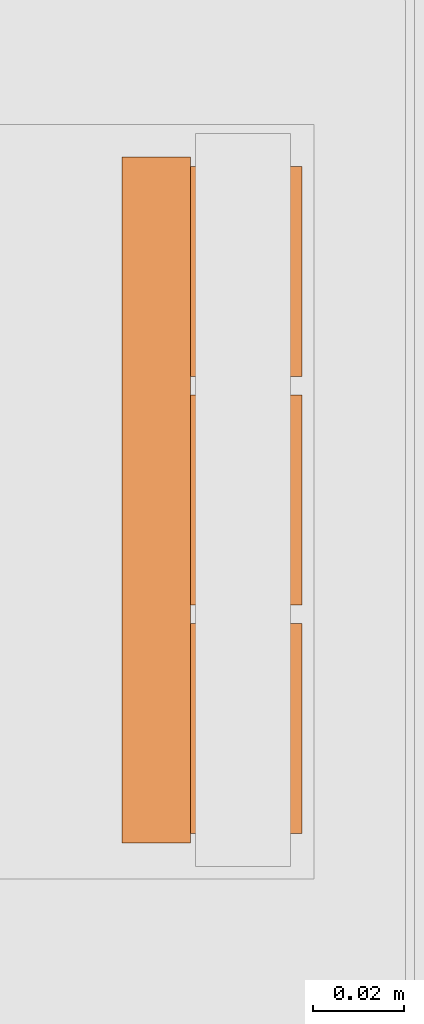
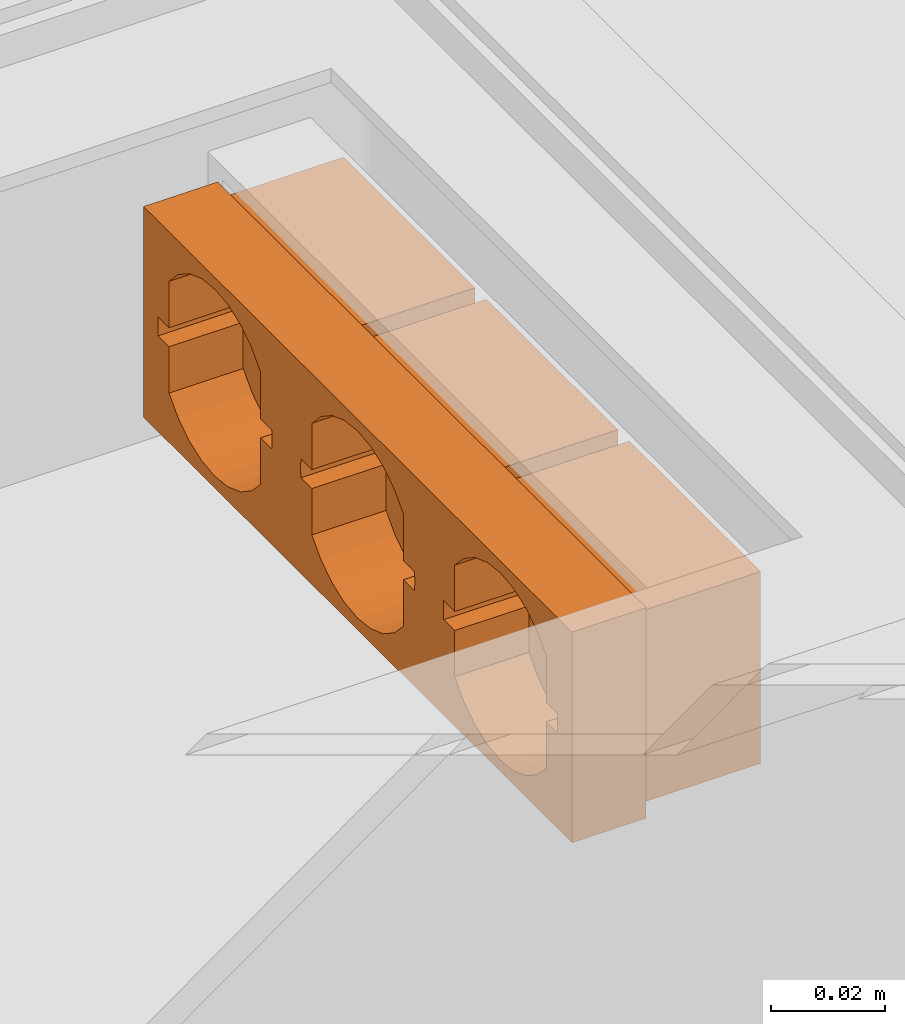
# One storey, part 76 of 87: 1 proxy.
"""IFC2X3 building model written with IfcOpenShell, lengths in millimetres."""

from ifc_helpers import new_model, entity, si_unit, converted_unit, derived_unit, direction, frame, origin, place, context, subcontext, project, spatial, faceted_brep, source, transform, mapped, type_object, type_shapes, element, save


model = new_model("IFC2X3")

# Units and contexts
model_context = context("Model", 3, precision=0.01, world=origin(), true_north=direction((6.12303176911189e-17, 1.0)))
body_context = subcontext(model_context, "Body", "Model", "MODEL_VIEW")
ifc_project = project(units=[si_unit("LENGTHUNIT", "METRE", prefix="MILLI"), si_unit("AREAUNIT", "SQUARE_METRE"), si_unit("VOLUMEUNIT", "CUBIC_METRE"), converted_unit("PLANEANGLEUNIT", "DEGREE", entity("IfcRatioMeasure", 0.0174532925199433), si_unit("PLANEANGLEUNIT", "RADIAN"), dimensions=[0, 0, 0, 0, 0, 0, 0]), si_unit("MASSUNIT", "GRAM", prefix="KILO"), derived_unit("MASSDENSITYUNIT", [(si_unit("MASSUNIT", "GRAM", prefix="KILO"), 1), (si_unit("LENGTHUNIT", "METRE"), -3)]), si_unit("TIMEUNIT", "SECOND"), si_unit("FREQUENCYUNIT", "HERTZ"), si_unit("THERMODYNAMICTEMPERATUREUNIT", "DEGREE_CELSIUS"), derived_unit("THERMALTRANSMITTANCEUNIT", [(si_unit("MASSUNIT", "GRAM", prefix="KILO"), 1), (si_unit("THERMODYNAMICTEMPERATUREUNIT", "KELVIN"), -1), (si_unit("TIMEUNIT", "SECOND"), -3)]), derived_unit("VOLUMETRICFLOWRATEUNIT", [(si_unit("LENGTHUNIT", "METRE"), 3), (si_unit("TIMEUNIT", "SECOND"), -1)]), si_unit("ELECTRICCURRENTUNIT", "AMPERE"), si_unit("ELECTRICVOLTAGEUNIT", "VOLT"), si_unit("POWERUNIT", "WATT"), si_unit("FORCEUNIT", "NEWTON", prefix="KILO"), si_unit("ILLUMINANCEUNIT", "LUX"), si_unit("LUMINOUSFLUXUNIT", "LUMEN"), si_unit("LUMINOUSINTENSITYUNIT", "CANDELA"), derived_unit("USERDEFINED", [(si_unit("MASSUNIT", "GRAM", prefix="KILO"), -1), (si_unit("LENGTHUNIT", "METRE"), -2), (si_unit("TIMEUNIT", "SECOND"), 3), (si_unit("LUMINOUSFLUXUNIT", "LUMEN"), 1)]), derived_unit("LINEARVELOCITYUNIT", [(si_unit("LENGTHUNIT", "METRE"), 1), (si_unit("TIMEUNIT", "SECOND"), -1)]), si_unit("PRESSUREUNIT", "PASCAL"), derived_unit("USERDEFINED", [(si_unit("LENGTHUNIT", "METRE"), -2), (si_unit("MASSUNIT", "GRAM", prefix="KILO"), 1), (si_unit("TIMEUNIT", "SECOND"), -2)])], contexts=[model_context])

# Site, building, storey
site_placement = place(None, origin())
site = spatial("IfcSite", under=ifc_project, at=site_placement, Name="Default", CompositionType="ELEMENT")
building_placement = place(site_placement, origin())
building = spatial("IfcBuilding", under=site, at=building_placement, Name="Наименование здания", CompositionType="ELEMENT")
storey_placement = place(building_placement, origin())
storey = spatial("IfcBuildingStorey", under=building, at=storey_placement, Name="Этаж 01", CompositionType="ELEMENT", Elevation=0.0)

# Proxy
building_element_proxy_type = type_object("IfcBuildingElementProxyType", Name="Белый", PredefinedType="NOTDEFINED")
shared_shape = source(origin(), body_context, "Body", "Brep", [
    faceted_brep([(62.5564586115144, 10.5732864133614, 0.0), (59.5230890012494, 10.5732864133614, -3.03336961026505), (56.4897193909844, 10.5732864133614, 0.0), (59.5230890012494, 10.5732864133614, 3.03336961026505), (43.5102806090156, 10.5732864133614, 0.0), (40.4769109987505, 10.5732864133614, -3.03336961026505), (37.4435413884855, 10.5732864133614, 0.0), (40.4769109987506, 10.5732864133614, 3.03336961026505), (40.4769109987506, 24.2999999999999, 3.03336961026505), (27.0, 24.2999999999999, 20.5000000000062), (59.5230890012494, 24.2999999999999, 3.03336961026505), (37.4435413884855, 24.2999999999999, 0.0), (43.5102806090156, 24.2999999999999, 0.0), (27.0, 24.2999999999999, -20.5000000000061), (40.4769109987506, 24.2999999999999, -3.03336961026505), (59.5230890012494, 24.2999999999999, -3.03336961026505), (56.4897193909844, 24.2999999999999, 0.0), (73.0, 24.2999999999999, -20.5000000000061), (62.5564586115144, 24.2999999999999, 0.0), (73.0, 24.2999999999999, 20.5000000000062), (73.0, 0.0, 20.5000000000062), (27.0, 0.0, 20.5000000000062), (27.0, 0.0, -20.5000000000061), (73.0, 0.0, -20.5000000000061)], [[[0, 1, 2, 3]], [[4, 5, 6, 7]], [[8, 9, 10]], [[11, 9, 8]], [[12, 8, 10]], [[9, 11, 13]], [[14, 13, 11]], [[15, 13, 14]], [[14, 12, 15]], [[16, 15, 12]], [[13, 15, 17]], [[17, 15, 18]], [[18, 10, 19]], [[19, 17, 18]], [[19, 10, 9]], [[16, 12, 10]], [[20, 21, 22, 23]], [[20, 19, 9, 21]], [[23, 17, 19, 20]], [[22, 13, 17, 23]], [[21, 9, 13, 22]], [[11, 6, 5, 14]], [[5, 4, 12, 14]], [[12, 4, 7, 8]], [[7, 6, 11, 8]], [[16, 2, 1, 15]], [[1, 0, 18, 15]], [[18, 0, 3, 10]], [[3, 2, 16, 10]]]),
    faceted_brep([(41.0158322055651, 39.2999999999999, 17.868540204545), (37.1337260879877, 39.2999999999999, 15.31205393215), (25.0, 39.2999999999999, 22.5000000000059), (45.3832264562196, 39.2999999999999, 19.4598407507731), (33.9466036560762, 39.2999999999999, 11.9284729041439), (30.1036424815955, 39.2999999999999, 2.03345949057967), (33.9466036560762, 39.2999999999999, 2.03345949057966), (30.0, 39.2999999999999, 0.0), (25.0, 39.2999999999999, -22.5000000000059), (30.1036424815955, 39.2999999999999, -2.03345949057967), (33.9466036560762, 39.2999999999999, -11.9284729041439), (33.9466036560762, 39.2999999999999, -2.03345949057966), (37.1337260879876, 39.2999999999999, -15.31205393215), (41.0158322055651, 39.2999999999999, -17.8685402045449), (45.3832264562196, 39.2999999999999, -19.4598407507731), (50.0, 39.2999999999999, -20.0), (75.0, 39.2999999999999, -22.5000000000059), (54.6167735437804, 39.2999999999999, -19.4598407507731), (58.9841677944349, 39.2999999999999, -17.8685402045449), (62.8662739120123, 39.2999999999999, -15.31205393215), (66.0533963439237, 39.2999999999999, -11.9284729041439), (69.8963575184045, 39.2999999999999, -2.03345949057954), (66.0533963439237, 39.2999999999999, -2.03345949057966), (70.0, 39.2999999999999, 0.0), (75.0, 39.2999999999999, 22.5000000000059), (69.8963575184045, 39.2999999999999, 2.03345949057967), (66.0533963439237, 39.2999999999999, 11.9284729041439), (66.0533963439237, 39.2999999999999, 2.03345949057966), (62.8662739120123, 39.2999999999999, 15.31205393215), (58.9841677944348, 39.2999999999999, 17.868540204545), (54.6167735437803, 39.2999999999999, 19.4598407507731), (50.0, 39.2999999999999, 20.0), (41.0158322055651, 24.2999999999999, -17.8685402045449), (37.1337260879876, 24.2999999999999, -15.31205393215), (25.0, 24.2999999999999, -22.5000000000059), (45.3832264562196, 24.2999999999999, -19.4598407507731), (33.9466036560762, 24.2999999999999, -11.9284729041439), (30.1036424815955, 24.2999999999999, -2.03345949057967), (33.9466036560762, 24.2999999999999, -2.03345949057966), (30.0, 24.2999999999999, 0.0), (25.0, 24.2999999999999, 22.5000000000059), (30.1036424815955, 24.2999999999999, 2.03345949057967), (33.9466036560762, 24.2999999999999, 11.9284729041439), (33.9466036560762, 24.2999999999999, 2.03345949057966), (37.1337260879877, 24.2999999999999, 15.31205393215), (41.0158322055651, 24.2999999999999, 17.868540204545), (45.3832264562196, 24.2999999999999, 19.4598407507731), (50.0, 24.2999999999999, 20.0), (75.0, 24.2999999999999, 22.5000000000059), (54.6167735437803, 24.2999999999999, 19.4598407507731), (58.9841677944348, 24.2999999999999, 17.868540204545), (62.8662739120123, 24.2999999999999, 15.31205393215), (66.0533963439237, 24.2999999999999, 11.9284729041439), (69.8963575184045, 24.2999999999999, 2.03345949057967), (66.0533963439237, 24.2999999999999, 2.03345949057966), (70.0, 24.2999999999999, 0.0), (75.0, 24.2999999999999, -22.5000000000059), (69.8963575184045, 24.2999999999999, -2.03345949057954), (66.0533963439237, 24.2999999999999, -11.9284729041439), (66.0533963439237, 24.2999999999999, -2.03345949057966), (62.8662739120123, 24.2999999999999, -15.31205393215), (58.9841677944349, 24.2999999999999, -17.8685402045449), (54.6167735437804, 24.2999999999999, -19.4598407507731), (50.0, 24.2999999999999, -20.0)], [[[0, 1, 2]], [[2, 3, 0]], [[4, 2, 1]], [[2, 4, 5]], [[5, 4, 6]], [[2, 5, 7]], [[7, 8, 2]], [[8, 7, 9]], [[8, 9, 10]], [[11, 10, 9]], [[12, 8, 10]], [[12, 13, 8]], [[14, 8, 13]], [[8, 14, 15]], [[15, 16, 8]], [[16, 15, 17]], [[16, 17, 18]], [[18, 19, 16]], [[20, 16, 19]], [[21, 16, 20]], [[21, 20, 22]], [[16, 21, 23]], [[24, 16, 23]], [[23, 25, 24]], [[24, 25, 26]], [[27, 26, 25]], [[24, 26, 28]], [[28, 29, 24]], [[30, 24, 29]], [[24, 30, 31]], [[31, 3, 2]], [[2, 24, 31]], [[32, 33, 34]], [[34, 35, 32]], [[36, 34, 33]], [[34, 36, 37]], [[37, 36, 38]], [[34, 37, 39]], [[39, 40, 34]], [[40, 39, 41]], [[40, 41, 42]], [[43, 42, 41]], [[44, 40, 42]], [[44, 45, 40]], [[46, 40, 45]], [[40, 46, 47]], [[47, 48, 40]], [[48, 47, 49]], [[48, 49, 50]], [[50, 51, 48]], [[52, 48, 51]], [[53, 48, 52]], [[53, 52, 54]], [[48, 53, 55]], [[56, 48, 55]], [[55, 57, 56]], [[56, 57, 58]], [[59, 58, 57]], [[56, 58, 60]], [[60, 61, 56]], [[62, 56, 61]], [[56, 62, 63]], [[63, 35, 34]], [[34, 56, 63]], [[40, 48, 24, 2]], [[48, 56, 16, 24]], [[56, 34, 8, 16]], [[34, 40, 2, 8]], [[42, 4, 1, 44]], [[1, 0, 45, 44]], [[3, 46, 45, 0]], [[46, 3, 31, 47]], [[49, 30, 29, 50]], [[50, 29, 28, 51]], [[51, 28, 26, 52]], [[49, 47, 31, 30]], [[42, 43, 6, 4]], [[36, 10, 11, 38]], [[41, 5, 6, 43]], [[53, 54, 27, 25]], [[37, 9, 7, 39]], [[7, 5, 41, 39]], [[38, 11, 9, 37]], [[59, 57, 21, 22]], [[58, 20, 19, 60]], [[19, 18, 61, 60]], [[17, 62, 61, 18]], [[62, 17, 15, 63]], [[35, 14, 13, 32]], [[13, 12, 33, 32]], [[10, 36, 33, 12]], [[35, 63, 15, 14]], [[59, 22, 20, 58]], [[52, 26, 27, 54]], [[53, 25, 23, 55]], [[23, 21, 57, 55]]]),
    faceted_brep([(-62.5564586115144, 10.5732864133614, 0.0), (-59.5230890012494, 10.5732864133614, 3.03336961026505), (-56.4897193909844, 10.5732864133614, 0.0), (-59.5230890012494, 10.5732864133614, -3.03336961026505), (-43.5102806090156, 10.5732864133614, 0.0), (-40.4769109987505, 10.5732864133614, 3.03336961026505), (-37.4435413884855, 10.5732864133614, 0.0), (-40.4769109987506, 10.5732864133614, -3.03336961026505), (-43.5102806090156, 24.2999999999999, 0.0), (-59.5230890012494, 24.2999999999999, 3.03336961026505), (-40.4769109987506, 24.2999999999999, 3.03336961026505), (-56.4897193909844, 24.2999999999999, 0.0), (-59.5230890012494, 24.2999999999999, -3.03336961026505), (-40.4769109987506, 24.2999999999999, -3.03336961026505), (-27.0, 24.2999999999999, -20.5000000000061), (-37.4435413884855, 24.2999999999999, 0.0), (-27.0, 24.2999999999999, 20.5000000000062), (-73.0, 24.2999999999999, -20.5000000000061), (-62.5564586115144, 24.2999999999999, 0.0), (-73.0, 24.2999999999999, 20.5000000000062), (-27.0, 0.0, -20.5000000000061), (-27.0, 0.0, 20.5000000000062), (-73.0, 0.0, 20.5000000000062), (-73.0, 0.0, -20.5000000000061)], [[[0, 1, 2, 3]], [[4, 5, 6, 7]], [[8, 9, 10]], [[11, 9, 8]], [[11, 8, 12]], [[12, 8, 13]], [[13, 14, 12]], [[13, 15, 14]], [[15, 10, 16]], [[16, 14, 15]], [[12, 14, 17]], [[17, 18, 12]], [[19, 18, 17]], [[19, 16, 9]], [[18, 19, 9]], [[16, 10, 9]], [[20, 21, 22, 23]], [[21, 16, 19, 22]], [[22, 19, 17, 23]], [[23, 17, 14, 20]], [[20, 14, 16, 21]], [[8, 4, 7, 13]], [[7, 6, 15, 13]], [[15, 6, 5, 10]], [[5, 4, 8, 10]], [[18, 0, 3, 12]], [[3, 2, 11, 12]], [[11, 2, 1, 9]], [[1, 0, 18, 9]]]),
    faceted_brep([(-30.1036424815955, 39.2999999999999, 2.03345949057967), (-33.9466036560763, 39.2999999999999, 11.928472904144), (-25.0, 39.2999999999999, 22.5000000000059), (-33.9466036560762, 39.2999999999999, 2.03345949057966), (-30.0, 39.2999999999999, 0.0), (-37.1337260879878, 39.2999999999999, 15.3120539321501), (-41.0158322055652, 39.2999999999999, 17.868540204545), (-45.3832264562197, 39.2999999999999, 19.4598407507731), (-50.0, 39.2999999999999, 20.0), (-75.0, 39.2999999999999, 22.5000000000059), (-54.6167735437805, 39.2999999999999, 19.4598407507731), (-58.984167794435, 39.2999999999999, 17.8685402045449), (-62.8662739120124, 39.2999999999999, 15.31205393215), (-66.0533963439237, 39.2999999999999, 11.9284729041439), (-69.8963575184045, 39.2999999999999, 2.03345949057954), (-66.0533963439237, 39.2999999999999, 2.03345949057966), (-70.0, 39.2999999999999, 0.0), (-75.0, 39.2999999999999, -22.5000000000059), (-69.8963575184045, 39.2999999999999, -2.03345949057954), (-66.0533963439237, 39.2999999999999, -11.928472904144), (-66.0533963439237, 39.2999999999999, -2.03345949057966), (-62.8662739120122, 39.2999999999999, -15.3120539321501), (-58.9841677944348, 39.2999999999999, -17.868540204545), (-54.6167735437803, 39.2999999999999, -19.4598407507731), (-50.0, 39.2999999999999, -20.0), (-25.0, 39.2999999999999, -22.5000000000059), (-45.3832264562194, 39.2999999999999, -19.4598407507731), (-41.015832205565, 39.2999999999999, -17.8685402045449), (-37.1337260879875, 39.2999999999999, -15.3120539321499), (-33.9466036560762, 39.2999999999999, -11.9284729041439), (-30.1036424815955, 39.2999999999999, -2.03345949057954), (-33.9466036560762, 39.2999999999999, -2.03345949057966), (-69.8963575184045, 24.2999999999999, 2.03345949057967), (-66.0533963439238, 24.2999999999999, 11.9284729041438), (-75.0, 24.2999999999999, 22.5000000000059), (-66.0533963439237, 24.2999999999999, 2.03345949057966), (-70.0, 24.2999999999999, 0.0), (-62.8662739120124, 24.2999999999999, 15.31205393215), (-58.984167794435, 24.2999999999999, 17.8685402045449), (-54.6167735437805, 24.2999999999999, 19.4598407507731), (-50.0, 24.2999999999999, 20.0), (-25.0, 24.2999999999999, 22.5000000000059), (-45.3832264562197, 24.2999999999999, 19.4598407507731), (-41.0158322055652, 24.2999999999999, 17.868540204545), (-37.1337260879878, 24.2999999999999, 15.3120539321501), (-33.9466036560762, 24.2999999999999, 11.9284729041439), (-30.1036424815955, 24.2999999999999, 2.03345949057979), (-33.9466036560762, 24.2999999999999, 2.03345949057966), (-30.0, 24.2999999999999, 0.0), (-25.0, 24.2999999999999, -22.5000000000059), (-30.1036424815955, 24.2999999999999, -2.03345949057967), (-33.9466036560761, 24.2999999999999, -11.9284729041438), (-33.9466036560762, 24.2999999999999, -2.03345949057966), (-37.1337260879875, 24.2999999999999, -15.3120539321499), (-41.015832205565, 24.2999999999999, -17.8685402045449), (-45.3832264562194, 24.2999999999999, -19.4598407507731), (-50.0, 24.2999999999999, -20.0), (-75.0, 24.2999999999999, -22.5000000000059), (-54.6167735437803, 24.2999999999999, -19.4598407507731), (-58.9841677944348, 24.2999999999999, -17.868540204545), (-62.8662739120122, 24.2999999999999, -15.3120539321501), (-66.0533963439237, 24.2999999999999, -11.9284729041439), (-69.8963575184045, 24.2999999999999, -2.03345949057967), (-66.0533963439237, 24.2999999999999, -2.03345949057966)], [[[0, 1, 2]], [[1, 0, 3]], [[4, 0, 2]], [[5, 2, 1]], [[2, 5, 6]], [[2, 6, 7]], [[2, 7, 8]], [[8, 9, 2]], [[9, 8, 10]], [[9, 10, 11]], [[12, 9, 11]], [[12, 13, 9]], [[14, 9, 13]], [[13, 15, 14]], [[9, 14, 16]], [[16, 17, 9]], [[17, 16, 18]], [[18, 19, 17]], [[19, 18, 20]], [[21, 17, 19]], [[17, 21, 22]], [[23, 17, 22]], [[17, 23, 24]], [[25, 17, 24]], [[24, 26, 25]], [[25, 26, 27]], [[25, 27, 28]], [[28, 29, 25]], [[30, 25, 29]], [[31, 30, 29]], [[25, 30, 4]], [[2, 25, 4]], [[32, 33, 34]], [[33, 32, 35]], [[36, 32, 34]], [[37, 34, 33]], [[34, 37, 38]], [[34, 38, 39]], [[34, 39, 40]], [[40, 41, 34]], [[41, 40, 42]], [[41, 42, 43]], [[44, 41, 43]], [[44, 45, 41]], [[46, 41, 45]], [[45, 47, 46]], [[41, 46, 48]], [[48, 49, 41]], [[49, 48, 50]], [[50, 51, 49]], [[51, 50, 52]], [[53, 49, 51]], [[49, 53, 54]], [[55, 49, 54]], [[49, 55, 56]], [[57, 49, 56]], [[56, 58, 57]], [[57, 58, 59]], [[57, 59, 60]], [[60, 61, 57]], [[62, 57, 61]], [[63, 62, 61]], [[57, 62, 36]], [[34, 57, 36]], [[34, 41, 2, 9]], [[57, 34, 9, 17]], [[49, 57, 17, 25]], [[41, 49, 25, 2]], [[33, 13, 12, 37]], [[12, 11, 38, 37]], [[10, 39, 38, 11]], [[39, 10, 8, 40]], [[42, 7, 6, 43]], [[6, 5, 44, 43]], [[1, 45, 44, 5]], [[42, 40, 8, 7]], [[47, 45, 1, 3]], [[52, 31, 29, 51]], [[47, 3, 0, 46]], [[35, 32, 14, 15]], [[46, 0, 4, 48]], [[4, 30, 50, 48]], [[50, 30, 31, 52]], [[63, 20, 18, 62]], [[51, 29, 28, 53]], [[28, 27, 54, 53]], [[26, 55, 54, 27]], [[55, 26, 24, 56]], [[58, 23, 22, 59]], [[59, 22, 21, 60]], [[60, 21, 19, 61]], [[58, 56, 24, 23]], [[61, 19, 20, 63]], [[35, 15, 13, 33]], [[62, 18, 16, 36]], [[16, 14, 32, 36]]]),
    faceted_brep([(-12.5564586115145, 10.5732864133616, 0.0), (-9.52308900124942, 10.5732864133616, 3.03336961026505), (-6.48971939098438, 10.5732864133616, 0.0), (-9.52308900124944, 10.5732864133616, -3.03336961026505), (6.48971939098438, 10.5732864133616, 0.0), (9.52308900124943, 10.5732864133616, 3.03336961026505), (12.5564586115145, 10.5732864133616, 0.0), (9.52308900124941, 10.5732864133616, -3.03336961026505), (9.52308900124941, 24.3000000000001, 3.03336961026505), (16.0533963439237, 24.3000000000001, 11.9284729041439), (16.0533963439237, 24.3000000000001, 2.03345949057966), (12.8662739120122, 24.3000000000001, 15.3120539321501), (8.98416779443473, 24.3000000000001, 17.868540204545), (4.6167735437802, 24.3000000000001, 19.4598407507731), (0.0, 24.3000000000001, 20.0), (6.48971939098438, 24.3000000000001, 0.0), (12.5564586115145, 24.3000000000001, 0.0), (-6.48971939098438, 24.3000000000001, 0.0), (0.0, 24.3000000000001, -20.0), (9.52308900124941, 24.3000000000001, -3.03336961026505), (4.61677354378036, 24.3000000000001, -19.4598407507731), (8.98416779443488, 24.3000000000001, -17.8685402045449), (12.8662739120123, 24.3000000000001, -15.31205393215), (16.0533963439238, 24.3000000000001, -11.9284729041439), (16.0533963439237, 24.3000000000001, -2.03345949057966), (20.0, 24.3000000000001, 0.0), (19.8963575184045, 24.3000000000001, -2.03345949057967), (-9.52308900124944, 24.3000000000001, -3.03336961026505), (-4.61677354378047, 24.3000000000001, -19.4598407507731), (-8.98416779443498, 24.3000000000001, -17.8685402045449), (-12.8662739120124, 24.3000000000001, -15.3120539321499), (-16.0533963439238, 24.3000000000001, -11.9284729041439), (-16.0533963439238, 24.3000000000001, -2.03345949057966), (-12.5564586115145, 24.3000000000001, 0.0), (-16.0533963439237, 24.3000000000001, 2.03345949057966), (-20.0, 24.3000000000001, 0.0), (-19.8963575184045, 24.3000000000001, -2.03345949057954), (-19.8963575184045, 24.3000000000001, 2.03345949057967), (-9.52308900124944, 24.3000000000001, 3.03336961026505), (-16.0533963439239, 24.3000000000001, 11.9284729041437), (-12.8662739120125, 24.3000000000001, 15.3120539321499), (-8.98416779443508, 24.3000000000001, 17.8685402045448), (-4.61677354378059, 24.3000000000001, 19.4598407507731), (19.8963575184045, 24.3000000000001, 2.03345949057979), (23.0, 0.0, -20.5000000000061), (23.0, 0.0, 20.5000000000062), (-23.0, 0.0, 20.5000000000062), (-23.0, 0.0, -20.5000000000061), (23.0, 24.3000000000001, 20.5000000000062), (-23.0, 24.3000000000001, 20.5000000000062), (-23.0, 24.3000000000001, -20.5000000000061), (23.0, 24.3000000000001, -20.5000000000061), (19.8963575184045, 39.3, 2.03345949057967), (16.0533963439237, 39.3, 11.928472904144), (25.0, 39.3, 22.5000000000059), (16.0533963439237, 39.3, 2.03345949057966), (20.0, 39.3, 0.0), (12.8662739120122, 39.3, 15.3120539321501), (8.98416779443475, 39.3, 17.868540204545), (4.61677354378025, 39.3, 19.4598407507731), (0.0, 39.3, 20.0), (-25.0, 39.3, 22.5000000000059), (-4.6167735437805, 39.3, 19.4598407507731), (-8.98416779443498, 39.3, 17.8685402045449), (-12.8662739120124, 39.3, 15.31205393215), (-16.0533963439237, 39.3, 11.9284729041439), (-19.8963575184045, 39.3, 2.03345949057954), (-16.0533963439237, 39.3, 2.03345949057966), (-20.0, 39.3, 0.0), (-25.0, 39.3, -22.5000000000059), (-19.8963575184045, 39.3, -2.03345949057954), (-16.0533963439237, 39.3, -11.928472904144), (-16.0533963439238, 39.3, -2.03345949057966), (-12.8662739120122, 39.3, -15.3120539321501), (-8.98416779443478, 39.3, -17.868540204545), (-4.61677354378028, 39.3, -19.4598407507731), (0.0, 39.3, -20.0), (25.0, 39.3, -22.5000000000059), (4.61677354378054, 39.3, -19.4598407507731), (8.98416779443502, 39.3, -17.8685402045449), (12.8662739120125, 39.3, -15.3120539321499), (16.0533963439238, 39.3, -11.9284729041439), (19.8963575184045, 39.3, -2.03345949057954), (16.0533963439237, 39.3, -2.03345949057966), (-25.0, 24.3000000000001, 22.5000000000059), (-25.0, 24.3000000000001, -22.5000000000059), (25.0, 24.3000000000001, 22.5000000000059), (25.0, 24.3000000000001, -22.5000000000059)], [[[0, 1, 2, 3]], [[4, 5, 6, 7]], [[8, 9, 10]], [[8, 11, 9]], [[11, 8, 12]], [[8, 13, 12]], [[8, 14, 13]], [[15, 14, 8]], [[16, 8, 10]], [[17, 14, 15]], [[15, 18, 17]], [[18, 15, 19]], [[18, 19, 20]], [[20, 19, 21]], [[22, 21, 19]], [[23, 22, 19]], [[23, 19, 24]], [[16, 24, 19]], [[24, 10, 25]], [[26, 24, 25]], [[24, 16, 10]], [[17, 18, 27]], [[27, 18, 28]], [[28, 29, 27]], [[30, 27, 29]], [[27, 30, 31]], [[32, 27, 31]], [[33, 27, 32]], [[34, 33, 32]], [[32, 35, 34]], [[36, 35, 32]], [[37, 34, 35]], [[34, 38, 33]], [[39, 38, 34]], [[40, 38, 39]], [[38, 40, 41]], [[38, 41, 42]], [[38, 42, 14]], [[38, 14, 17]], [[10, 43, 25]], [[44, 45, 46, 47]], [[46, 45, 48, 49]], [[47, 46, 49, 50]], [[44, 47, 50, 51]], [[45, 44, 51, 48]], [[15, 4, 7, 19]], [[7, 6, 16, 19]], [[16, 6, 5, 8]], [[5, 4, 15, 8]], [[33, 0, 3, 27]], [[3, 2, 17, 27]], [[17, 2, 1, 38]], [[1, 0, 33, 38]], [[52, 53, 54]], [[53, 52, 55]], [[56, 52, 54]], [[57, 54, 53]], [[54, 57, 58]], [[54, 58, 59]], [[54, 59, 60]], [[60, 61, 54]], [[61, 60, 62]], [[61, 62, 63]], [[64, 61, 63]], [[64, 65, 61]], [[66, 61, 65]], [[65, 67, 66]], [[61, 66, 68]], [[68, 69, 61]], [[69, 68, 70]], [[70, 71, 69]], [[71, 70, 72]], [[73, 69, 71]], [[69, 73, 74]], [[75, 69, 74]], [[69, 75, 76]], [[77, 69, 76]], [[76, 78, 77]], [[77, 78, 79]], [[77, 79, 80]], [[80, 81, 77]], [[82, 77, 81]], [[83, 82, 81]], [[77, 82, 56]], [[54, 77, 56]], [[50, 49, 84]], [[84, 85, 50]], [[51, 50, 85]], [[48, 84, 49]], [[51, 86, 48]], [[84, 48, 86]], [[86, 51, 87]], [[85, 87, 51]], [[86, 54, 61, 84]], [[85, 84, 61, 69]], [[85, 69, 77, 87]], [[86, 87, 77, 54]], [[39, 65, 64, 40]], [[64, 63, 41, 40]], [[62, 42, 41, 63]], [[42, 62, 60, 14]], [[13, 59, 58, 12]], [[58, 57, 11, 12]], [[53, 9, 11, 57]], [[13, 14, 60, 59]], [[10, 9, 53, 55]], [[23, 24, 83, 81]], [[43, 10, 55, 52]], [[34, 37, 66, 67]], [[43, 52, 56, 25]], [[56, 82, 26, 25]], [[24, 26, 82, 83]], [[36, 32, 72, 70]], [[23, 81, 80, 22]], [[80, 79, 21, 22]], [[78, 20, 21, 79]], [[20, 78, 76, 18]], [[28, 75, 74, 29]], [[29, 74, 73, 30]], [[30, 73, 71, 31]], [[28, 18, 76, 75]], [[32, 31, 71, 72]], [[39, 34, 67, 65]], [[36, 70, 68, 35]], [[68, 66, 37, 35]]]),
])
type_shapes(building_element_proxy_type, [shared_shape])
proxy_placement = place(storey_placement, frame((-16673.9239462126, 6730.32537465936, -40.0), z_axis=(0.0, 0.0, 1.0), x_axis=(0.0, 1.0, 0.0)))
element("IfcBuildingElementProxy", 1, at=proxy_placement, inside=storey, type_object=building_element_proxy_type, Name="Электрические розетки, штекерные, с заземлением и со шторками, моноблок:Белый", ObjectType="Белый", context=body_context, shape_type="MappedRepresentation", body=[
    mapped(shared_shape, transform((0.0, 0.0, 0.0), scale=1.0)),
])

save(model, "model.ifc")
